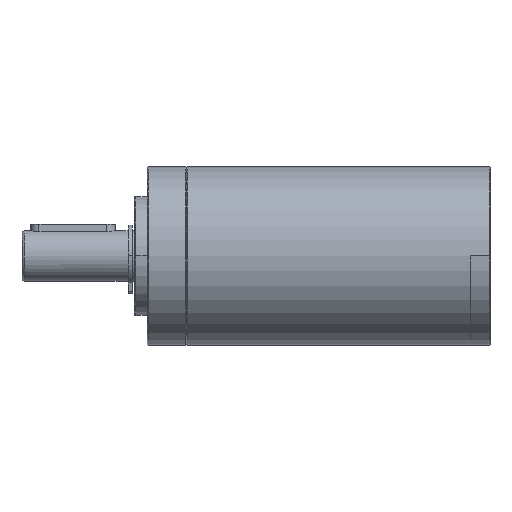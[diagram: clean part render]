
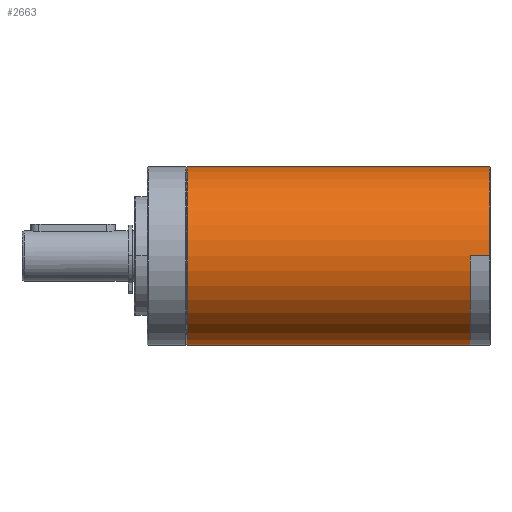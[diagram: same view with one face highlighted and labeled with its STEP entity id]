
A CAD part, top view. The second image highlights one B-rep face of the part: STEP entity #2663.
In plain terms, the highlighted cylindrical face has radius 21 mm (diameter 42 mm), a partial arc.
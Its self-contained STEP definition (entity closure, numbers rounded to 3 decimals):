
#51 = DIRECTION ( 'NONE',  ( 1., 0., 0. ) ) ;
#321 = EDGE_LOOP ( 'NONE', ( #354, #3713, #4094, #4824, #3222, #2706, #2685, #5037 ) ) ;
#354 = ORIENTED_EDGE ( 'NONE', *, *, #2002, .T. ) ;
#484 = EDGE_CURVE ( 'NONE', #4052, #1481, #5000, .T. ) ;
#526 = CARTESIAN_POINT ( 'NONE',  ( 80.633, 0., 0. ) ) ;
#644 = DIRECTION ( 'NONE',  ( 0., -1., 0. ) ) ;
#715 = AXIS2_PLACEMENT_3D ( 'NONE', #3681, #835, #2807 ) ;
#835 = DIRECTION ( 'NONE',  ( -1., 0., 0. ) ) ;
#953 = EDGE_CURVE ( 'NONE', #5100, #4960, #1882, .T. ) ;
#956 = CIRCLE ( 'NONE', #1838, 21. ) ;
#1050 = LINE ( 'NONE', #2606, #2308 ) ;
#1081 = CARTESIAN_POINT ( 'NONE',  ( 76.15, 21., 0. ) ) ;
#1155 = VERTEX_POINT ( 'NONE', #3356 ) ;
#1184 = VERTEX_POINT ( 'NONE', #2274 ) ;
#1343 = CARTESIAN_POINT ( 'NONE',  ( 76.15, 0., 21. ) ) ;
#1344 = EDGE_CURVE ( 'NONE', #5100, #3352, #3914, .T. ) ;
#1363 = CIRCLE ( 'NONE', #715, 21. ) ;
#1481 = VERTEX_POINT ( 'NONE', #1081 ) ;
#1699 = CARTESIAN_POINT ( 'NONE',  ( 80.633, 0., 21. ) ) ;
#1838 = AXIS2_PLACEMENT_3D ( 'NONE', #3014, #4532, #644 ) ;
#1869 = FACE_OUTER_BOUND ( 'NONE', #321, .T. ) ;
#1882 = LINE ( 'NONE', #4586, #4043 ) ;
#1904 = VERTEX_POINT ( 'NONE', #2429 ) ;
#2002 = EDGE_CURVE ( 'NONE', #3352, #1184, #1050, .T. ) ;
#2274 = CARTESIAN_POINT ( 'NONE',  ( 76.15, 0., -21. ) ) ;
#2308 = VECTOR ( 'NONE', #4974, 1000. ) ;
#2362 = LINE ( 'NONE', #3962, #3170 ) ;
#2429 = CARTESIAN_POINT ( 'NONE',  ( 76.15, -21., 0. ) ) ;
#2547 = EDGE_CURVE ( 'NONE', #1155, #1904, #2362, .T. ) ;
#2606 = CARTESIAN_POINT ( 'NONE',  ( 80.633, 0., -21. ) ) ;
#2663 = ADVANCED_FACE ( 'NONE', ( #1869 ), #4705, .T. ) ;
#2685 = ORIENTED_EDGE ( 'NONE', *, *, #953, .F. ) ;
#2706 = ORIENTED_EDGE ( 'NONE', *, *, #3775, .T. ) ;
#2807 = DIRECTION ( 'NONE',  ( 0., 1., 0. ) ) ;
#2874 = AXIS2_PLACEMENT_3D ( 'NONE', #4084, #4458, #4925 ) ;
#3014 = CARTESIAN_POINT ( 'NONE',  ( 76.15, 0., 0. ) ) ;
#3170 = VECTOR ( 'NONE', #51, 1000. ) ;
#3222 = ORIENTED_EDGE ( 'NONE', *, *, #2547, .T. ) ;
#3295 = DIRECTION ( 'NONE',  ( -1., 0., 0. ) ) ;
#3352 = VERTEX_POINT ( 'NONE', #4300 ) ;
#3356 = CARTESIAN_POINT ( 'NONE',  ( 9.4, -21., 0. ) ) ;
#3387 = DIRECTION ( 'NONE',  ( 1., 0., 0. ) ) ;
#3470 = VECTOR ( 'NONE', #3387, 1000. ) ;
#3542 = DIRECTION ( 'NONE',  ( 1., 0., 0. ) ) ;
#3646 = EDGE_CURVE ( 'NONE', #1481, #1184, #1363, .T. ) ;
#3681 = CARTESIAN_POINT ( 'NONE',  ( 76.15, 0., 0. ) ) ;
#3713 = ORIENTED_EDGE ( 'NONE', *, *, #3646, .F. ) ;
#3733 = AXIS2_PLACEMENT_3D ( 'NONE', #526, #3295, #4512 ) ;
#3775 = EDGE_CURVE ( 'NONE', #1904, #4960, #956, .T. ) ;
#3825 = DIRECTION ( 'NONE',  ( 0., -1., 0. ) ) ;
#3914 = CIRCLE ( 'NONE', #3733, 21. ) ;
#3949 = CIRCLE ( 'NONE', #2874, 21. ) ;
#3962 = CARTESIAN_POINT ( 'NONE',  ( 9.4, -21., 0. ) ) ;
#4043 = VECTOR ( 'NONE', #4155, 1000. ) ;
#4052 = VERTEX_POINT ( 'NONE', #4448 ) ;
#4084 = CARTESIAN_POINT ( 'NONE',  ( 9.4, 0., 0. ) ) ;
#4094 = ORIENTED_EDGE ( 'NONE', *, *, #484, .F. ) ;
#4155 = DIRECTION ( 'NONE',  ( -1., 0., 0. ) ) ;
#4202 = CARTESIAN_POINT ( 'NONE',  ( 9.4, 21., 0. ) ) ;
#4300 = CARTESIAN_POINT ( 'NONE',  ( 80.633, 0., -21. ) ) ;
#4448 = CARTESIAN_POINT ( 'NONE',  ( 9.4, 21., 0. ) ) ;
#4458 = DIRECTION ( 'NONE',  ( -1., 0., 0. ) ) ;
#4512 = DIRECTION ( 'NONE',  ( 0., 0., 1. ) ) ;
#4532 = DIRECTION ( 'NONE',  ( -1., 0., 0. ) ) ;
#4586 = CARTESIAN_POINT ( 'NONE',  ( 80.633, 0., 21. ) ) ;
#4705 = CYLINDRICAL_SURFACE ( 'NONE', #5091, 21. ) ;
#4824 = ORIENTED_EDGE ( 'NONE', *, *, #5033, .F. ) ;
#4925 = DIRECTION ( 'NONE',  ( 0., -1., 0. ) ) ;
#4960 = VERTEX_POINT ( 'NONE', #1343 ) ;
#4974 = DIRECTION ( 'NONE',  ( -1., 0., 0. ) ) ;
#5000 = LINE ( 'NONE', #4202, #3470 ) ;
#5033 = EDGE_CURVE ( 'NONE', #1155, #4052, #3949, .T. ) ;
#5037 = ORIENTED_EDGE ( 'NONE', *, *, #1344, .T. ) ;
#5075 = CARTESIAN_POINT ( 'NONE',  ( 9.2, 0., 0. ) ) ;
#5091 = AXIS2_PLACEMENT_3D ( 'NONE', #5075, #3542, #3825 ) ;
#5100 = VERTEX_POINT ( 'NONE', #1699 ) ;
